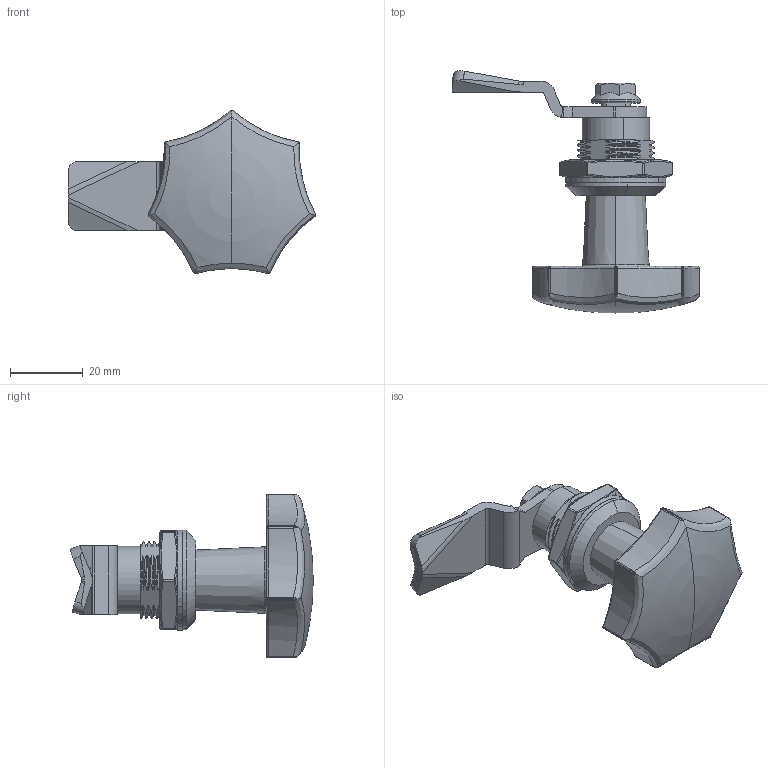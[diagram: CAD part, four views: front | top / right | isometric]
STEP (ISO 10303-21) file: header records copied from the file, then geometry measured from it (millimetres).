
FILE_DESCRIPTION (( 'STEP AP214' ), '1' );
FILE_NAME ('CUYUE.MS714-1.STEP', '2026-06-30T02:04:52', ( '' ), ( '' ), 'SwSTEP 2.0', 'SolidWorks 2020', '' );
FILE_SCHEMA (( 'AUTOMOTIVE_DESIGN' ));
Length unit declared in the file: millimetre
Products named in the file (9): CUYUE等疏え; CUYUE6D-M22蹟譫; CUYUE忒梟; CUYUE.MS714-1; CUYUEs1b45071_1; CUYUE16X2密封圈; CUYUE橡胶垫圈; CUYUE坶褲; M6X8蹟隊
Assembly tree (8 placements, depth 2):
  CUYUE.MS714-1
    CUYUE忒梟
    CUYUE坶褲
    CUYUE橡胶垫圈
    CUYUE16X2密封圈
    CUYUE等疏え
    CUYUE6D-M22蹟譫
    CUYUEs1b45071_1
    M6X8蹟隊
Bounding box: 68.06 x 66.77 x 45 mm (x, y, z)
Volume: 29593.3 mm3; surface area: 17221.9 mm2
Topology: 9 solids, 9 shells, 646 faces, 1684 edges, 1053 vertices
Faces by surface type: bspline 220, cylinder 203, plane 119, torus 40, sphere 35, cone 29
Entity records: 58944 total; most frequent: CARTESIAN_POINT 43045, ORIENTED_EDGE 3308, DIRECTION 2033, EDGE_CURVE 1654, VERTEX_POINT 1038, AXIS2_PLACEMENT_3D 782, EDGE_LOOP 674, ADVANCED_FACE 646
